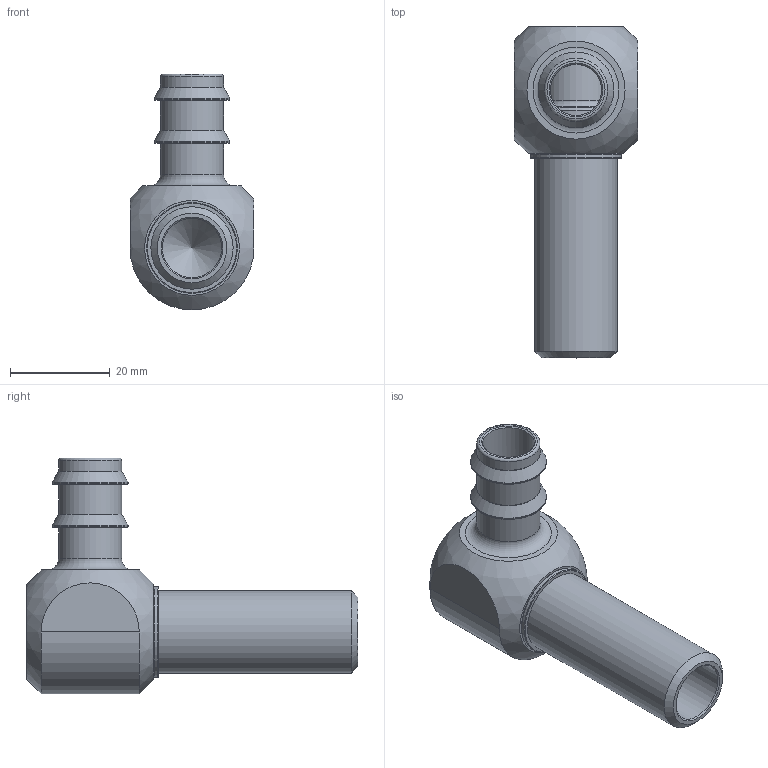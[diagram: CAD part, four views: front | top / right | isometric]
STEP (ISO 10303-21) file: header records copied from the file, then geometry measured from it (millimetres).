
FILE_DESCRIPTION(/* description */ (''),/* implementation_level */ '2;1');
FILE_NAME(/* name */ 'C:/Users/drich/Desktop/WJ38-M v1.step',/* time_stamp */ '2019-11-18T20:10:45-06:00',/* author */ (''),/* organization */ (''),/* preprocessor_version */ 'ST-DEVELOPER v18',/* originating_system */ 'Autodesk Translation Framework v8.12.0.6',/* authorisation */ '');
FILE_SCHEMA (('AUTOMOTIVE_DESIGN { 1 0 10303 214 3 1 1 }'));
Length unit declared in the file: inch
Products named in the file (4): WJ38-M; WJ38 BODY; WJ38-M SHAFT; WJ38-S SHAFT
Assembly tree (3 placements, depth 3):
  WJ38-M
    WJ38 BODY
    WJ38-M SHAFT
      WJ38-S SHAFT
Bounding box: 24.89 x 66.67 x 47.37 mm (x, y, z)
Volume: 13267.3 mm3; surface area: 12137.9 mm2
Topology: 2 solids, 2 shells, 91 faces, 258 edges, 186 vertices
Faces by surface type: torus 30, plane 27, cylinder 22, cone 11, sphere 1
Full cylindrical faces by diameter (mm): 9.5 x1, 10.312 x1, 11.887 x1, 12.7 x3, 13.97 x1, 15.24 x2, 16.537 x1, 16.891 x1, 17.018 x2, 17.12 x3, 17.424 x1, 18.237 x1, 19.685 x1, 19.812 x1, 22.352 x1
Entity records: 3287 total; most frequent: DIRECTION 643, CARTESIAN_POINT 590, ORIENTED_EDGE 514, AXIS2_PLACEMENT_3D 298, EDGE_CURVE 257, CIRCLE 200, VERTEX_POINT 186, EDGE_LOOP 111
